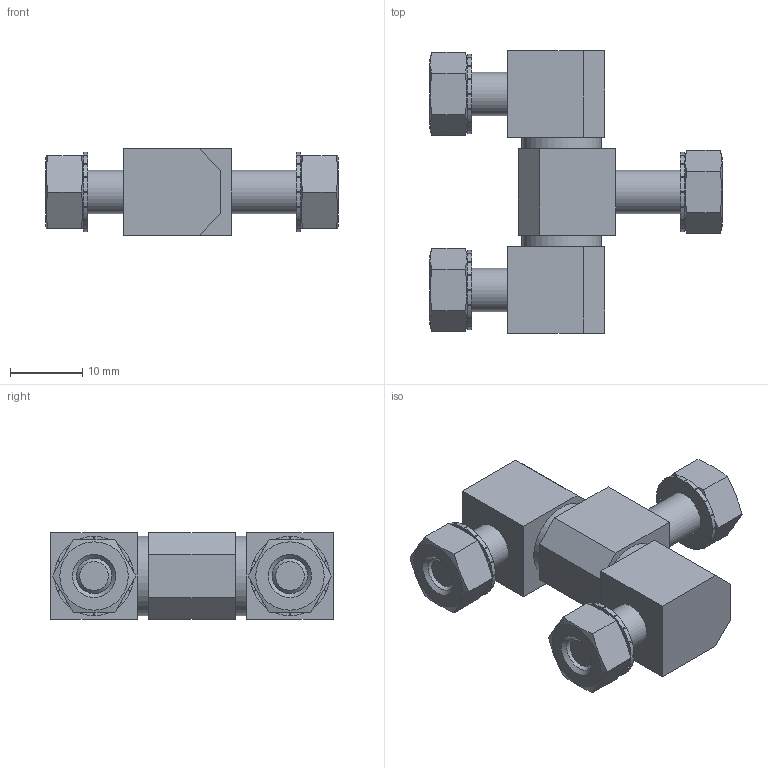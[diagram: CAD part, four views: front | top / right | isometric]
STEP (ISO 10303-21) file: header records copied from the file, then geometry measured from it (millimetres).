
FILE_DESCRIPTION( ( 'STEP AP203' ), '1' );
FILE_NAME( 'C:/Temp/Ganter_Step_05_03_2020/data/3_3/gn_129_5/Stainless Steel-Hinge GN 129.5-12-D-NI (0-9-5).stp', '2020-03-12T11:53:56', ( 'License CC BY-ND 4.0' ), ( 'CADENAS' ), ' ', 'PARTsolutions', ' ' );
FILE_SCHEMA( ( 'CONFIG_CONTROL_DESIGN' ) );
Length unit declared in the file: millimetre
Products named in the file (4): Stainless Steel-Hinge GN 129.5-12-D-NI (0-9-5); _Edelstahl-Scharnier GN 129.5-12-D-NI (5)-1; _Edelstahl-Scharnier GN 129.5-12-D-NI (9)-2; HI_Stainless Steel-Hinge GN 129.5-12-D-NI-6
Assembly tree (5 placements, depth 2):
  Stainless Steel-Hinge GN 129.5-12-D-NI (0-9-5)
    _Edelstahl-Scharnier GN 129.5-12-D-NI (5)-1
    _Edelstahl-Scharnier GN 129.5-12-D-NI (9)-2
    HI_Stainless Steel-Hinge GN 129.5-12-D-NI-6  x3
Bounding box: 40.6 x 39.2 x 12 mm (x, y, z)
Volume: 7879.1 mm3; surface area: 5115.4 mm2
Topology: 5 solids, 5 shells, 325 faces, 809 edges, 504 vertices
Faces by surface type: plane 248, cylinder 61, cone 16
Full cylindrical faces by diameter (mm): 4.917 x3, 6 x4, 6.1 x1, 6.4 x3, 11 x2
Entity records: 3973 total; most frequent: CARTESIAN_POINT 708, DIRECTION 664, ORIENTED_EDGE 610, EDGE_CURVE 305, AXIS2_PLACEMENT_3D 230, LINE 204, VECTOR 204, VERTEX_POINT 202
